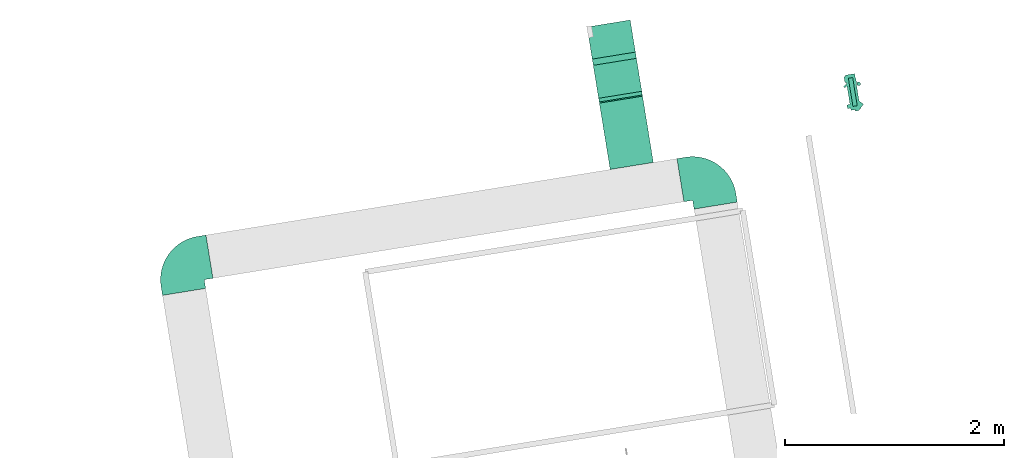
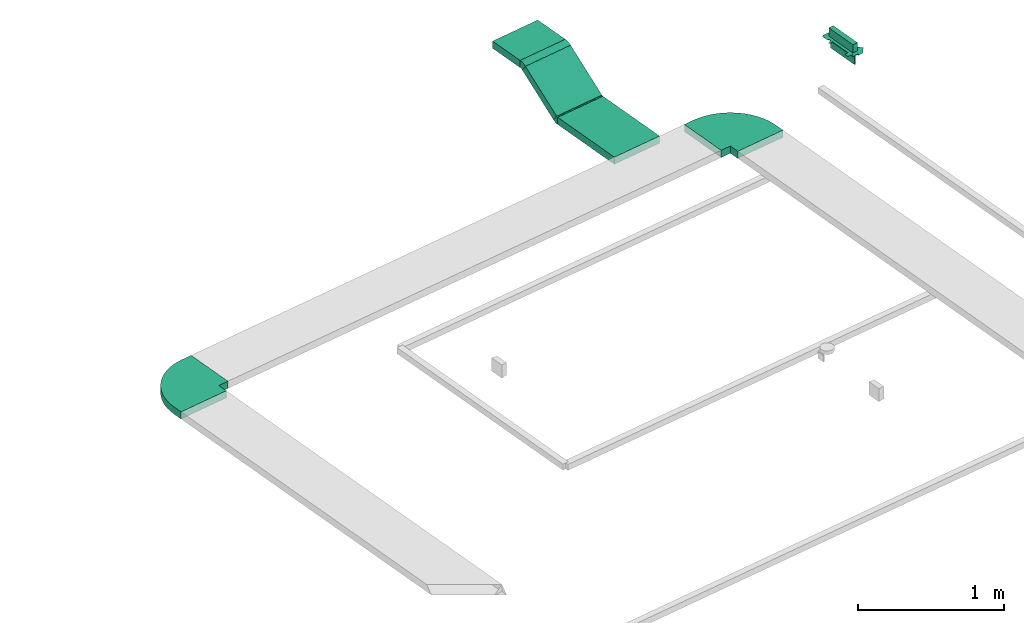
# One storey, part 7 of 20: 4 flow fittings, 3 flow segments, 1 flow terminal.
"""IFC2X3 building model written with IfcOpenShell, lengths in millimetres."""

from ifc_helpers import new_model, entity, si_unit, converted_unit, derived_unit, direction, frame, frame_2d, origin, origin_with_axes, origin_2d_with_axis, place, context, subcontext, project, spatial, polyline, circle_curve, parameter, trimmed, segment, composite_curve, rectangle, circle, outline, extrude, source, transform, mapped, material, material_list, type_object, element, save


model = new_model("IFC2X3")

# Units and contexts
model_context = context("Model", 3, precision=0.01, world=origin(), true_north=direction((6.12323399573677e-17, 1.0)))
plan_context = context("Plan", 3, precision=1e-05, world=origin_with_axes())
body_context = subcontext(model_context, "Body", "Model", "MODEL_VIEW")
ifc_project = project(units=[converted_unit("PLANEANGLEUNIT", "DEGREE", entity("IfcPositiveLengthMeasure", 0.0174532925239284), si_unit("PLANEANGLEUNIT", "RADIAN"), dimensions=[0, 0, 0, 0, 0, 0, 0]), si_unit("AREAUNIT", "SQUARE_METRE"), si_unit("LENGTHUNIT", "METRE", prefix="MILLI"), si_unit("MASSUNIT", "GRAM", prefix="KILO"), si_unit("POWERUNIT", "WATT"), si_unit("PRESSUREUNIT", "PASCAL", prefix="KILO"), si_unit("FORCEUNIT", "NEWTON", prefix="KILO"), si_unit("ELECTRICVOLTAGEUNIT", "VOLT"), si_unit("ELECTRICCURRENTUNIT", "AMPERE"), si_unit("THERMODYNAMICTEMPERATUREUNIT", "DEGREE_CELSIUS"), si_unit("TIMEUNIT", "SECOND"), si_unit("VOLUMEUNIT", "CUBIC_METRE"), derived_unit("LINEARVELOCITYUNIT", [(si_unit("LENGTHUNIT", "METRE"), 1), (si_unit("TIMEUNIT", "SECOND"), -1)]), derived_unit("VOLUMETRICFLOWRATEUNIT", [(si_unit("VOLUMEUNIT", "CUBIC_METRE"), 1), (si_unit("TIMEUNIT", "SECOND"), -1)]), derived_unit("THERMALTRANSMITTANCEUNIT", [(si_unit("POWERUNIT", "WATT"), 1), (si_unit("THERMODYNAMICTEMPERATUREUNIT", "KELVIN"), -1), (si_unit("AREAUNIT", "SQUARE_METRE"), -1)]), derived_unit("SOUNDPRESSUREUNIT", [(si_unit("PRESSUREUNIT", "PASCAL"), 1)])], contexts=[model_context, plan_context])

# Site, building, storey
site_placement = place(None, frame((-0.219946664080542, 0.12226179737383, 0.0), z_axis=(0.0, 0.0, 1.0), x_axis=(-0.160236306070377, 0.987078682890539, 0.0)))
site = spatial("IfcSite", under=ifc_project, at=site_placement, Name="Default", CompositionType="ELEMENT")
building_placement = place(site_placement, origin_with_axes())
building = spatial("IfcBuilding", under=site, at=building_placement, CompositionType="ELEMENT")
storey_placement = place(building_placement, frame((0.0, 0.0, 50999.9999999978), z_axis=(0.0, 0.0, 1.0), x_axis=(1.0, 0.0, 0.0)))
storey = spatial("IfcBuildingStorey", under=building, at=storey_placement, Name="Nivå D", CompositionType="ELEMENT", Elevation=50999.9999999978)

# Flow fittings
ifc_material_1 = material(Name="<Unnamed>")
cable_carrier_fitting_type_1 = type_object("IfcCableCarrierFittingType", Name="MC_Ladder Vertical Outside Bend:Standard 10mm", PredefinedType="NOTDEFINED", material=ifc_material_1)
shared_shape_1 = source(origin(), body_context, "Body", "SweptSolid", [
    extrude(outline(composite_curve([segment(polyline([(-20.8936618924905, -34.9381335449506), (-10.8936618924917, -34.9381335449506)]), True, "CONTINUOUS"), segment(trimmed(circle_curve(frame_2d((-10.8936618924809, 35.061866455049), x_axis=(0.0, -1.0)), 69.9999999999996), [parameter(0.0)], [parameter(34.5198603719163)], True, "PARAMETER"), True, "CONTINUOUS"), segment(polyline([(28.774768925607, -22.6132199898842), (37.014066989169, -16.9463013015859)]), True, "CONTINUOUS"), segment(polyline([(37.014066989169, -16.9463013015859), (3.01255485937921, 32.4894870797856)]), True, "CONTINUOUS"), segment(polyline([(3.01255485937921, 32.4894870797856), (-5.22674320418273, 26.8225683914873)]), True, "CONTINUOUS"), segment(trimmed(circle_curve(frame_2d((-10.8936618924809, 35.061866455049), x_axis=(0.0, -1.0)), 9.99999999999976), [parameter(0.0)], [parameter(34.5198603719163)], True, "PARAMETER"), False, "CONTINUOUS"), segment(polyline([(-10.8936618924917, 25.0618664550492), (-20.8936618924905, 25.0618664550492)]), True, "CONTINUOUS"), segment(polyline([(-20.8936618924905, 25.0618664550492), (-20.8936618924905, -34.9381335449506)]), True, "CONTINUOUS")], self_intersect=False)), frame((-1.53426963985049, 4.93813354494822, -200.0)), (0.0, 0.0, 1.0), 400.0),
])
flow_fitting_1_placement = place(storey_placement, frame((779432.619644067, -601772.480498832, 3180.0), z_axis=(0.0, -1.0, 0.0), x_axis=(-1.0, 0.0, 0.0)))
element("IfcFlowFitting", 1, at=flow_fitting_1_placement, inside=storey, type_object=cable_carrier_fitting_type_1, material=ifc_material_1, Name="MC_Ladder Vertical Outside Bend:Standard 10mm", ObjectType="MC_Ladder Vertical Outside Bend:Standard 10mm", context=body_context, shape_type="MappedRepresentation", body=[
    mapped(shared_shape_1, transform((0.0, 0.0, 0.0), scale=1.0)),
])
cable_carrier_fitting_type_2 = type_object("IfcCableCarrierFittingType", Name="MC_Ladder Vertical Inside Bend_Short:Standard 10mm", PredefinedType="NOTDEFINED", material=ifc_material_1)
shared_shape_2 = source(origin(), body_context, "Body", "SweptSolid", [
    extrude(outline(composite_curve([segment(polyline([(-14.2017847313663, -33.9464227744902), (-11.2017847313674, -33.9464227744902)]), True, "CONTINUOUS"), segment(trimmed(circle_curve(frame_2d((-11.2017847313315, 36.0535772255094), x_axis=(0.0, -1.0)), 69.9999999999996), [parameter(0.0)], [parameter(34.5198603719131)], True, "PARAMETER"), True, "CONTINUOUS"), segment(polyline([(28.4666460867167, -21.621509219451), (30.9384355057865, -19.9214336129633)]), True, "CONTINUOUS"), segment(polyline([(30.9384355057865, -19.9214336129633), (-3.06307662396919, 29.5143547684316)]), True, "CONTINUOUS"), segment(polyline([(-3.06307662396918, 29.5143547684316), (-5.53486604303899, 27.8142791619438)]), True, "CONTINUOUS"), segment(trimmed(circle_curve(frame_2d((-11.2017847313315, 36.0535772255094), x_axis=(0.0, -1.0)), 9.99999999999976), [parameter(0.0)], [parameter(34.5198603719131)], True, "PARAMETER"), False, "CONTINUOUS"), segment(polyline([(-11.2017847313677, 26.0535772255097), (-14.2017847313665, 26.0535772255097)]), True, "CONTINUOUS"), segment(polyline([(-14.2017847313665, 26.0535772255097), (-14.2017847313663, -33.9464227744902)]), True, "CONTINUOUS")], self_intersect=False)), frame((-1.22614680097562, 3.94642277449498, -200.0)), (0.0, 0.0, 1.0), 400.0),
])
flow_fitting_2_placement = place(storey_placement, frame((779061.867720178, -601772.480498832, 2925.0), z_axis=(0.0, -1.0, 0.0), x_axis=(1.0, 0.0, 0.0)))
element("IfcFlowFitting", 2, at=flow_fitting_2_placement, inside=storey, type_object=cable_carrier_fitting_type_2, material=ifc_material_1, Name="MC_Ladder Vertical Inside Bend_Short:Standard 10mm", ObjectType="MC_Ladder Vertical Inside Bend_Short:Standard 10mm", context=body_context, shape_type="MappedRepresentation", body=[
    mapped(shared_shape_2, transform((0.0, 0.0, 0.0), scale=1.0)),
])
cable_carrier_fitting_type_3 = type_object("IfcCableCarrierFittingType", Name="M_Ladder Horizontal Bend:Standard", PredefinedType="NOTDEFINED", material=ifc_material_1)
shared_shape_3 = source(origin(), body_context, "Body", "SweptSolid", [
    extrude(outline(composite_curve([segment(polyline([(-160.500000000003, -320.499999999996), (-80.5000000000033, -320.499999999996)]), True, "CONTINUOUS"), segment(trimmed(circle_curve(frame_2d((-80.4999999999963, 80.5000000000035), x_axis=(0.0, -1.0)), 401.0), [parameter(0.0)], [parameter(90.0)], True, "PARAMETER"), True, "CONTINUOUS"), segment(polyline([(320.500000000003, 80.4999999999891), (320.500000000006, 160.499999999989)]), True, "CONTINUOUS"), segment(polyline([(320.500000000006, 160.499999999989), (-79.4999999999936, 160.500000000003)]), True, "CONTINUOUS"), segment(polyline([(-79.4999999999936, 160.500000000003), (-79.4999999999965, 80.5000000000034)]), True, "CONTINUOUS"), segment(trimmed(circle_curve(frame_2d((-80.4999999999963, 80.5000000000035), x_axis=(0.0, -1.0)), 0.999999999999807), [parameter(0.0)], [parameter(90.0)], True, "PARAMETER"), False, "CONTINUOUS"), segment(polyline([(-80.5000000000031, 79.5000000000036), (-160.500000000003, 79.5000000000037)]), True, "CONTINUOUS"), segment(polyline([(-160.500000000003, 79.5000000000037), (-160.500000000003, -320.499999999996)]), True, "CONTINUOUS")], self_intersect=False)), frame((-120.499999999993, 120.499999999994, -30.0)), (0.0, 0.0, 1.0), 60.0000000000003),
])
for number, where, z_axis, x_axis, name in (
    (3, (778231.867720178, -597544.170719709, 2925.0), (0.0, 0.0, 1.0), (0.0, 1.0, 0.0), "M_Ladder Horizontal Bend:Standard"),
    (4, (778231.867720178, -602472.480498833, 2925.0), (0.0, 0.0, 1.0), (1.0, 0.0, 0.0), "M_Ladder Horizontal Bend:Standard"),
):
    element("IfcFlowFitting", number, at=place(storey_placement, frame(where, z_axis=z_axis, x_axis=x_axis)), inside=storey, type_object=cable_carrier_fitting_type_3, material=ifc_material_1, Name=name, ObjectType="M_Ladder Horizontal Bend:Standard", context=body_context, shape_type="MappedRepresentation", body=[
        mapped(shared_shape_3, transform((0.0, 0.0, 0.0), scale=1.0)),
    ])

# Flow terminal
ifc_material_2 = material(Name="2dsblk")
ifc_material_list = material_list([ifc_material_2, ifc_material_1])
light_fixture_type = type_object("IfcLightFixtureType", Name="M-lys fremover tak publikum 20m:-UN7310", PredefinedType="NOTDEFINED", material=ifc_material_list)
shared_shape_4 = source(origin(), body_context, "Body", "SweptSolid", [
    extrude(outline(polyline([(-25.8228749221, -51.1161594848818), (12.4258979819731, -51.1161594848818), (-21.7669144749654, -16.9233470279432), (73.6334086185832, -16.9233470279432), (73.6334086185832, 16.9233470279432), (-21.7669144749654, 16.9233470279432), (12.4258979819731, 51.1161594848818), (-25.8228749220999, 51.1161594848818), (-76.9390344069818, 0.0), (-25.8228749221, -51.1161594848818)])), frame((125.297715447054, 1.2386972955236, -0.1), z_axis=(0.0, 0.0, 1.0), x_axis=(0.0, -1.0, 0.0)), (0.0, 0.0, 1.0), 0.2),
    extrude(outline(polyline([(-6.10714037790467, -51.8565655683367), (-1.76037814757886, -51.8565655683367), (45.3729852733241, -37.5857314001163), (53.5206012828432, -5.19351524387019), (38.9737159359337, -1.53453632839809), (32.8977785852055, -25.6904459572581), (17.4710656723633, -30.3612787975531), (24.2154308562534, 9.01205129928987), (12.8354595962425, 46.5975431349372), (48.7264105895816, 57.4644487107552), (44.3796483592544, 71.8208291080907), (-5.86768303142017, 56.6071613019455), (5.64304708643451, 18.5898022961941), (-44.7350372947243, 64.1977588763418), (-54.9650910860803, 52.8977456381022), (-3.40451370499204, 6.21926225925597), (-14.633108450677, -35.2221583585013), (-21.9788550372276, -10.9608054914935), (-57.8698060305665, -21.8277110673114), (-53.5230438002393, -36.184091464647), (-31.988473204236, -29.6639481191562), (-27.2030130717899, -45.4692492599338), (-6.10714037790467, -51.8565655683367)])), frame((-86.7120545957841, -1.62137574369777, 0.0), z_axis=(0.0, 0.0, 1.0), x_axis=(-0.957092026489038, 0.289784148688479, 0.0)), (0.0, 0.0, 1.0), 1.0),
    extrude(circle(Radius=17.5, at=frame_2d((-8.45989944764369e-15, -3.38395977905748e-14), x_axis=(1.0, 0.0))), frame((-65.0, 65.0, 0.0)), (0.0, 0.0, 1.0), 1.0),
    extrude(outline(polyline([(-6.92029730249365, -3.22947207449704), (7.12534314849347, -3.22947207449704), (6.92029730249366, 3.22947207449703), (-7.12534314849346, 3.22947207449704), (-6.92029730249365, -3.22947207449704)])), frame((-64.4000089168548, -8.09999999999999, -54.2000008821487), z_axis=(0.0, 1.0, 0.0), x_axis=(-0.939793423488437, 0.0, 0.341743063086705)), (0.0, 0.0, 1.0), 0.2),
    extrude(outline(polyline([(-4.05547591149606, -6.96980059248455), (3.6341277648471, -6.96980059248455), (3.77457714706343, 7.07513762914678), (-3.35322900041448, 6.86446355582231), (-4.05547591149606, -6.96980059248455)])), frame((-80.1500095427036, -8.09999999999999, -56.1500009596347), z_axis=(0.0, 1.0, 0.0), x_axis=(-0.351123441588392, 0.0, -0.936329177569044)), (0.0, 0.0, 1.0), 0.2),
    extrude(outline(polyline([(-7.04845095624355, -4.4597471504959), (6.99718949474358, -4.4597471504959), (7.04845095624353, 4.45974715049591), (-6.99718949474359, 4.45974715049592), (-7.04845095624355, -4.4597471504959)])), frame((-83.0000096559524, -8.09999999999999, -63.8000012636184), z_axis=(0.0, 1.0, 0.0), x_axis=(-0.939793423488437, 0.0, 0.341743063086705)), (0.0, 0.0, 1.0), 0.2),
    extrude(outline(polyline([(-7.1493424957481, -4.63438589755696), (4.91050872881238, -4.63438589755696), (9.38817626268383, 4.85826927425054), (-7.1493424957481, 4.41050252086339), (-7.1493424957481, -4.63438589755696)])), frame((-65.0000089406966, -8.09999999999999, -77.22500179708), z_axis=(0.0, 1.0, 0.0), x_axis=(-0.0995037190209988, 0.0, 0.995037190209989)), (0.0, 0.0, 1.0), 0.2),
    extrude(outline(polyline([(-2.22770039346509, -4.17969529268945), (5.9331822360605, -4.17969529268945), (5.53616632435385, 4.73110628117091), (-9.24164816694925, 3.62828430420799), (-2.22770039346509, -4.17969529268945)])), frame((-71.0000091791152, -8.09999999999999, -68.1500014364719), z_axis=(0.0, 1.0, 0.0), x_axis=(-0.95577900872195, 0.0, 0.294085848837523)), (0.0, 0.0, 1.0), 0.2),
    extrude(outline(polyline([(-7.73069962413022, -5.5089736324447), (4.17896079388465, -5.5089736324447), (4.45100887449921, 4.25452970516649), (-0.89927004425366, 6.76341755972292), (-7.73069962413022, -5.5089736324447)])), frame((-87.3500098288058, -8.09999999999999, -71.3000015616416), z_axis=(0.0, 1.0, 0.0), x_axis=(-0.755689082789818, 0.0, -0.654930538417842)), (0.0, 0.0, 1.0), 0.2),
    extrude(outline(polyline([(-12.3904177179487, -3.94240563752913), (9.3425074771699, -3.94240563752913), (9.67380206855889, 3.94240563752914), (-6.62589182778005, 3.94240563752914), (-12.3904177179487, -3.94240563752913)])), frame((-99.6500103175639, -8.09999999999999, -75.6500017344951), z_axis=(0.0, 1.0, 0.0), x_axis=(-0.993883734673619, 0.0, -0.110431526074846)), (0.0, 0.0, 1.0), 0.2),
    extrude(outline(polyline([(-2.63259625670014, -6.94910543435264), (3.05950375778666, -6.94910543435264), (2.68003042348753, 7.09140793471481), (-3.10693792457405, 6.80680293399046), (-2.63259625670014, -6.94910543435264)])), frame((-75.4250093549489, -8.09999999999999, -43.7000004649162), z_axis=(0.0, 1.0, 0.0), x_axis=(-0.316227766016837, 0.0, -0.948683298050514)), (0.0, 0.0, 1.0), 0.2),
    extrude(outline(polyline([(-0.879511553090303, -3.27817942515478), (8.12548741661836, -3.27817942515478), (-1.80899535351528, 5.53692500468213), (-5.43698051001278, 1.01943384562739), (-0.879511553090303, -3.27817942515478)])), frame((-86.6000097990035, -8.09999999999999, -39.8000003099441), z_axis=(0.0, 1.0, 0.0), x_axis=(-0.499722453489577, 0.0, 0.866185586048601)), (0.0, 0.0, 1.0), 0.2),
    extrude(outline(polyline([(-8.09152013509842, -3.46984265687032), (10.7393064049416, -3.46984265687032), (5.25255796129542, 3.67057735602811), (-7.90034423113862, 3.26910795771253), (-8.09152013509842, -3.46984265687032)])), frame((-94.4000101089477, -8.09999999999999, -45.6500005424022), z_axis=(0.0, 1.0, 0.0), x_axis=(0.382351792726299, 0.0, 0.924016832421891)), (0.0, 0.0, 1.0), 0.2),
    extrude(outline(polyline([(-3.59320493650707, -6.96357545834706), (2.86899308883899, -6.96357545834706), (3.87174795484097, 6.85215825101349), (-3.14753610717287, 7.0749926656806), (-3.59320493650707, -6.96357545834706)])), frame((-77.6000094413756, -8.09999999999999, -49.5500006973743), z_axis=(0.0, 1.0, 0.0), x_axis=(-0.371390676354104, 0.0, -0.928476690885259)), (0.0, 0.0, 1.0), 0.2),
    extrude(outline(polyline([(-8.33333333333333, -5.0), (1.66666666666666, -5.0), (6.66666666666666, 10.0), (-8.33333333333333, -5.0)])), frame((-6.66666666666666, -8.09999999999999, -75.0), z_axis=(0.0, 1.0, 0.0), x_axis=(1.0, 0.0, 0.0)), (0.0, 0.0, 1.0), 0.2),
    extrude(outline(polyline([(-6.32455532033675, -3.16227766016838), (9.48683298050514, -3.16227766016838), (-3.16227766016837, 6.32455532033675), (-6.32455532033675, -3.16227766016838)])), frame((0.0, -8.09999999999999, -75.0), z_axis=(0.0, 1.0, 0.0), x_axis=(-0.316227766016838, 0.0, -0.948683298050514)), (0.0, 0.0, 1.0), 0.2),
    extrude(outline(polyline([(-9.42809041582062, -2.35702260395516), (11.7851130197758, -2.35702260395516), (-2.35702260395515, 4.71404520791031), (-9.42809041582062, -2.35702260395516)])), frame((6.66666666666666, -8.09999999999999, -75.0), z_axis=(0.0, 1.0, 0.0), x_axis=(-0.707106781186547, 0.0, -0.707106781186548)), (0.0, 0.0, 1.0), 0.2),
    extrude(rectangle(XDim=0.2, YDim=9.99999999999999, at=frame_2d((-5.27355936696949e-16, 0.0), x_axis=(1.0, 0.0))), frame((0.0, -8.0, -70.0), z_axis=(0.0, 0.0, 1.0), x_axis=(0.0, 1.0, 0.0)), (0.0, 0.0, 1.0), 40.0),
    extrude(rectangle(XDim=0.2, YDim=30.0, at=frame_2d((-5.27355936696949e-16, -4.44089209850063e-15), x_axis=(1.0, 0.0))), frame((90.4000091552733, -8.0, -85.0), z_axis=(0.0, 0.0, 1.0), x_axis=(0.0, 1.0, 0.0)), (0.0, 0.0, 1.0), 59.9999999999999),
    extrude(outline(polyline([(-6.92029730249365, -3.22947207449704), (7.12534314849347, -3.22947207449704), (6.92029730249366, 3.22947207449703), (-7.12534314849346, 3.22947207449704), (-6.92029730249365, -3.22947207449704)])), frame((-64.4000089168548, 7.89999999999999, -54.2000008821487), z_axis=(0.0, 1.0, 0.0), x_axis=(-0.939793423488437, 0.0, 0.341743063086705)), (0.0, 0.0, 1.0), 0.2),
    extrude(outline(polyline([(-4.05547591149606, -6.96980059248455), (3.6341277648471, -6.96980059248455), (3.77457714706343, 7.07513762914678), (-3.35322900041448, 6.86446355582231), (-4.05547591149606, -6.96980059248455)])), frame((-80.1500095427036, 7.89999999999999, -56.1500009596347), z_axis=(0.0, 1.0, 0.0), x_axis=(-0.351123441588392, 0.0, -0.936329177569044)), (0.0, 0.0, 1.0), 0.2),
    extrude(outline(polyline([(-7.04845095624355, -4.4597471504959), (6.99718949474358, -4.4597471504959), (7.04845095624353, 4.45974715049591), (-6.99718949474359, 4.45974715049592), (-7.04845095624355, -4.4597471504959)])), frame((-83.0000096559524, 7.89999999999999, -63.8000012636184), z_axis=(0.0, 1.0, 0.0), x_axis=(-0.939793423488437, 0.0, 0.341743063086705)), (0.0, 0.0, 1.0), 0.2),
    extrude(outline(polyline([(-7.1493424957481, -4.63438589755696), (4.91050872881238, -4.63438589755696), (9.38817626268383, 4.85826927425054), (-7.1493424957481, 4.41050252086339), (-7.1493424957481, -4.63438589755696)])), frame((-65.0000089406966, 7.89999999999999, -77.22500179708), z_axis=(0.0, 1.0, 0.0), x_axis=(-0.0995037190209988, 0.0, 0.995037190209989)), (0.0, 0.0, 1.0), 0.2),
    extrude(outline(polyline([(-2.22770039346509, -4.17969529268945), (5.9331822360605, -4.17969529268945), (5.53616632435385, 4.73110628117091), (-9.24164816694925, 3.62828430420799), (-2.22770039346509, -4.17969529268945)])), frame((-71.0000091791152, 7.89999999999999, -68.1500014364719), z_axis=(0.0, 1.0, 0.0), x_axis=(-0.95577900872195, 0.0, 0.294085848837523)), (0.0, 0.0, 1.0), 0.2),
    extrude(outline(polyline([(-7.73069962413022, -5.5089736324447), (4.17896079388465, -5.5089736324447), (4.45100887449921, 4.25452970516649), (-0.89927004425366, 6.76341755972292), (-7.73069962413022, -5.5089736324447)])), frame((-87.3500098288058, 7.89999999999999, -71.3000015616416), z_axis=(0.0, 1.0, 0.0), x_axis=(-0.755689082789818, 0.0, -0.654930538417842)), (0.0, 0.0, 1.0), 0.2),
    extrude(outline(polyline([(-12.3904177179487, -3.94240563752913), (9.3425074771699, -3.94240563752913), (9.67380206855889, 3.94240563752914), (-6.62589182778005, 3.94240563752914), (-12.3904177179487, -3.94240563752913)])), frame((-99.6500103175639, 7.89999999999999, -75.6500017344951), z_axis=(0.0, 1.0, 0.0), x_axis=(-0.993883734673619, 0.0, -0.110431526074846)), (0.0, 0.0, 1.0), 0.2),
    extrude(outline(polyline([(-2.63259625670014, -6.94910543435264), (3.05950375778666, -6.94910543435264), (2.68003042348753, 7.09140793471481), (-3.10693792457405, 6.80680293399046), (-2.63259625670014, -6.94910543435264)])), frame((-75.4250093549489, 7.89999999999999, -43.7000004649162), z_axis=(0.0, 1.0, 0.0), x_axis=(-0.316227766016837, 0.0, -0.948683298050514)), (0.0, 0.0, 1.0), 0.2),
    extrude(outline(polyline([(-0.879511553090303, -3.27817942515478), (8.12548741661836, -3.27817942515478), (-1.80899535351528, 5.53692500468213), (-5.43698051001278, 1.01943384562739), (-0.879511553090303, -3.27817942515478)])), frame((-86.6000097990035, 7.89999999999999, -39.8000003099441), z_axis=(0.0, 1.0, 0.0), x_axis=(-0.499722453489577, 0.0, 0.866185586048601)), (0.0, 0.0, 1.0), 0.2),
    extrude(outline(polyline([(-8.09152013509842, -3.46984265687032), (10.7393064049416, -3.46984265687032), (5.25255796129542, 3.67057735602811), (-7.90034423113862, 3.26910795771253), (-8.09152013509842, -3.46984265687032)])), frame((-94.4000101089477, 7.89999999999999, -45.6500005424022), z_axis=(0.0, 1.0, 0.0), x_axis=(0.382351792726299, 0.0, 0.924016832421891)), (0.0, 0.0, 1.0), 0.2),
    extrude(outline(polyline([(-3.59320493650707, -6.96357545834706), (2.86899308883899, -6.96357545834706), (3.87174795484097, 6.85215825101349), (-3.14753610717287, 7.0749926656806), (-3.59320493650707, -6.96357545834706)])), frame((-77.6000094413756, 7.89999999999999, -49.5500006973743), z_axis=(0.0, 1.0, 0.0), x_axis=(-0.371390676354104, 0.0, -0.928476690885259)), (0.0, 0.0, 1.0), 0.2),
    extrude(outline(polyline([(-8.33333333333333, -5.0), (1.66666666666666, -5.0), (6.66666666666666, 10.0), (-8.33333333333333, -5.0)])), frame((-6.66666666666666, 7.89999999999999, -75.0), z_axis=(0.0, 1.0, 0.0), x_axis=(1.0, 0.0, 0.0)), (0.0, 0.0, 1.0), 0.2),
    extrude(outline(polyline([(-6.32455532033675, -3.16227766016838), (9.48683298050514, -3.16227766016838), (-3.16227766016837, 6.32455532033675), (-6.32455532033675, -3.16227766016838)])), frame((0.0, 7.89999999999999, -75.0), z_axis=(0.0, 1.0, 0.0), x_axis=(-0.316227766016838, 0.0, -0.948683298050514)), (0.0, 0.0, 1.0), 0.2),
    extrude(outline(polyline([(-9.42809041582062, -2.35702260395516), (11.7851130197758, -2.35702260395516), (-2.35702260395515, 4.71404520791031), (-9.42809041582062, -2.35702260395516)])), frame((6.66666666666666, 7.89999999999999, -75.0), z_axis=(0.0, 1.0, 0.0), x_axis=(-0.707106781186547, 0.0, -0.707106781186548)), (0.0, 0.0, 1.0), 0.2),
    extrude(rectangle(XDim=0.2, YDim=9.99999999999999, at=frame_2d((-5.27355936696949e-16, 0.0), x_axis=(1.0, 0.0))), frame((0.0, 8.0, -70.0), z_axis=(0.0, 0.0, 1.0), x_axis=(0.0, 1.0, 0.0)), (0.0, 0.0, 1.0), 40.0),
    extrude(rectangle(XDim=0.2, YDim=30.0, at=frame_2d((-5.27355936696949e-16, -4.44089209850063e-15), x_axis=(1.0, 0.0))), frame((90.4000091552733, 8.0, -85.0), z_axis=(0.0, 0.0, 1.0), x_axis=(0.0, 1.0, 0.0)), (0.0, 0.0, 1.0), 59.9999999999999),
    extrude(rectangle(XDim=0.2, YDim=250.800018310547, at=frame_2d((-5.27355936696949e-16, 0.0), x_axis=(1.0, 0.0))), frame((0.0, -6.49999999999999, -100.0), z_axis=(0.0, 0.0, 1.0), x_axis=(0.0, 1.0, 0.0)), (0.0, 0.0, 1.0), 89.9999999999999),
    extrude(rectangle(XDim=0.2, YDim=250.800018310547, at=frame_2d((5.27355936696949e-16, 0.0), x_axis=(1.0, 0.0))), frame((0.0, 6.49999999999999, -100.0), z_axis=(0.0, 0.0, 1.0), x_axis=(0.0, 1.0, 0.0)), (0.0, 0.0, 1.0), 89.9999999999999),
    extrude(circle(Radius=5.03999997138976, at=frame_2d((0.0, -2.53796983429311e-14), x_axis=(1.0, 0.0))), frame((-70.4000091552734, -8.09999999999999, -32.0), z_axis=(0.0, 1.0, 0.0), x_axis=(0.0, 0.0, -1.0)), (0.0, 0.0, 1.0), 0.2),
    extrude(circle(Radius=5.03999997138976, at=frame_2d((0.0, -8.45989944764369e-15), x_axis=(1.0, 0.0))), frame((-70.4000091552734, 7.89999999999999, -32.0), z_axis=(0.0, 1.0, 0.0), x_axis=(0.0, 0.0, 1.0)), (0.0, 0.0, 1.0), 0.2),
    extrude(rectangle(XDim=260.800018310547, YDim=9.99999999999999, at=origin_2d_with_axis()), frame((0.0, 0.0, -105.0)), (0.0, 0.0, 1.0), 99.9999999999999),
    extrude(rectangle(XDim=260.800018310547, YDim=40.0, at=origin_2d_with_axis()), origin(), (0.0, 0.0, 1.0), 68.9999999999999),
    extrude(rectangle(XDim=326.0, YDim=86.9999999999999, at=origin_2d_with_axis()), frame((0.0, 0.0, -5.0)), (0.0, 0.0, 1.0), 4.99999999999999),
])
flow_terminal_placement = place(storey_placement, frame((778775.836417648, -603877.714407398, 2700.0), z_axis=(0.0, 0.0, 1.0), x_axis=(-1.0, 0.0, 0.0)))
element("IfcFlowTerminal", 5, at=flow_terminal_placement, inside=storey, type_object=light_fixture_type, material=ifc_material_list, Name="M-lys fremover tak publikum 20m:-UN7310", ObjectType="M-lys fremover tak publikum 20m:-UN7310", context=body_context, shape_type="MappedRepresentation", body=[
    mapped(shared_shape_4, transform((0.0, 0.0, 0.0), scale=1.0)),
])

# Flow segments
cable_carrier_segment_type = type_object("IfcCableCarrierSegmentType", Name="Cable Tray with Fittings:Kabelbro", PredefinedType="CABLETRAYSEGMENT")
flow_segment_1_placement = place(storey_placement, origin_with_axes())
element("IfcFlowSegment", 6, at=flow_segment_1_placement, inside=storey, type_object=cable_carrier_segment_type, Name="Cable Tray with Fittings:Kabelbro", ObjectType="Cable Tray with Fittings:Kabelbro", context=body_context, shape_type="SweptSolid", body=[
    extrude(rectangle(XDim=297.572068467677, YDim=400.000000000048, at=origin_2d_with_axis()), frame((779603.833609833, -601772.480498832, 3150.0)), (0.0, 0.0, 1.0), 60.0000000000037),
])
flow_segment_2_placement = place(storey_placement, origin_with_axes())
element("IfcFlowSegment", 7, at=flow_segment_2_placement, inside=storey, type_object=cable_carrier_segment_type, Name="Cable Tray with Fittings:Kabelbro", ObjectType="Cable Tray with Fittings:Kabelbro", context=body_context, shape_type="SweptSolid", body=[
    extrude(rectangle(XDim=400.000000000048, YDim=614.572068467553, at=frame_2d((0.0, -6.93205493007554e-11), x_axis=(1.0, 0.0))), frame((778739.153754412, -601772.480498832, 2895.0), z_axis=(0.0, 0.0, 1.0), x_axis=(0.0, -1.0, 0.0)), (0.0, 0.0, 1.0), 60.0000000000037),
])
flow_segment_3_placement = place(storey_placement, origin_with_axes())
element("IfcFlowSegment", 8, at=flow_segment_3_placement, inside=storey, type_object=cable_carrier_segment_type, Name="Cable Tray with Fittings:Kabelbro", ObjectType="Cable Tray with Fittings:Kabelbro", context=body_context, shape_type="SweptSolid", body=[
    extrude(rectangle(XDim=59.9999999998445, YDim=400.000000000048, at=origin_2d_with_axis()), frame((779074.579252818, -601772.480498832, 2933.74288335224), z_axis=(0.823929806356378, 0.0, 0.566691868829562), x_axis=(-0.566691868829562, 0.0, 0.823929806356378)), (0.0, 0.0, 1.0), 412.124124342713),
])

save(model, "model.ifc")
